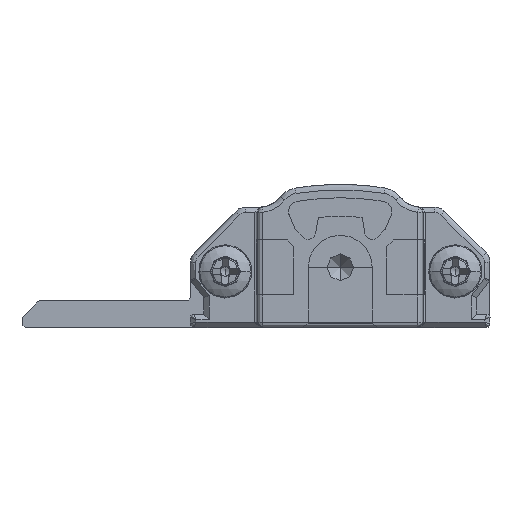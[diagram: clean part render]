
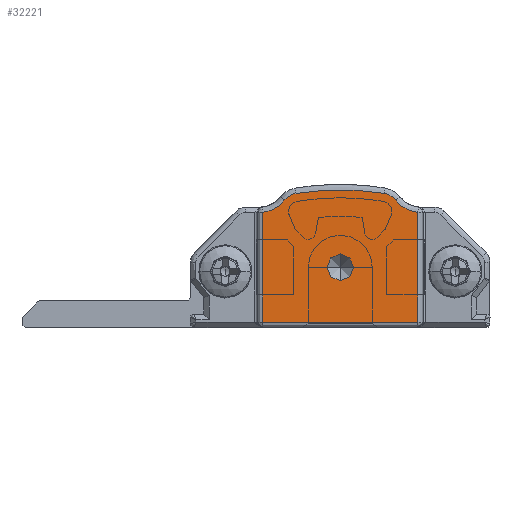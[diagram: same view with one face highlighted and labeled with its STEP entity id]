
A CAD part, front view. The second image highlights one B-rep face of the part: STEP entity #32221.
In plain terms, the highlighted planar face has unit normal (0, -1, 0).
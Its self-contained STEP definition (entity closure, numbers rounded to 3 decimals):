
#48 = EDGE_CURVE ( 'NONE', #4764, #43657, #9859, .T. ) ;
#1078 = CARTESIAN_POINT ( 'NONE',  ( 15.332, -15., 9.541 ) ) ;
#2301 = DIRECTION ( 'NONE',  ( 0., 1., 0. ) ) ;
#3364 = EDGE_LOOP ( 'NONE', ( #37435, #40771 ) ) ;
#4314 = VECTOR ( 'NONE', #26739, 1000. ) ;
#4764 = VERTEX_POINT ( 'NONE', #31469 ) ;
#6120 = EDGE_CURVE ( 'NONE', #26105, #7661, #44091, .T. ) ;
#6198 = DIRECTION ( 'NONE',  ( 0., 0., -1. ) ) ;
#6702 = DIRECTION ( 'NONE',  ( 0., 0., -1. ) ) ;
#7661 = VERTEX_POINT ( 'NONE', #17104 ) ;
#7672 = CARTESIAN_POINT ( 'NONE',  ( 17., -15., 0.4 ) ) ;
#8413 = FACE_OUTER_BOUND ( 'NONE', #37574, .T. ) ;
#8886 = EDGE_CURVE ( 'NONE', #27395, #4764, #38909, .T. ) ;
#9116 = CARTESIAN_POINT ( 'NONE',  ( 14.508, -15., 10.034 ) ) ;
#9859 = CIRCLE ( 'NONE', #14899, 2.4 ) ;
#9982 = DIRECTION ( 'NONE',  ( 0., -1., 0. ) ) ;
#10935 = VERTEX_POINT ( 'NONE', #35334 ) ;
#11078 = DIRECTION ( 'NONE',  ( 0., 0., -1. ) ) ;
#11208 = DIRECTION ( 'NONE',  ( 0., 0., -1. ) ) ;
#12762 = CARTESIAN_POINT ( 'NONE',  ( 17., -15., 0.4 ) ) ;
#13008 = DIRECTION ( 'NONE',  ( 0., 0., -1. ) ) ;
#13760 = DIRECTION ( 'NONE',  ( 0., 0., -1. ) ) ;
#14164 = VERTEX_POINT ( 'NONE', #9116 ) ;
#14243 = CARTESIAN_POINT ( 'NONE',  ( 17., -15., 8.612 ) ) ;
#14899 = AXIS2_PLACEMENT_3D ( 'NONE', #28515, #42467, #11208 ) ;
#16054 = DIRECTION ( 'NONE',  ( 0., 0., -1. ) ) ;
#17104 = CARTESIAN_POINT ( 'NONE',  ( 5.4, -15., 0.4 ) ) ;
#17282 = ORIENTED_EDGE ( 'NONE', *, *, #48, .T. ) ;
#17897 = CARTESIAN_POINT ( 'NONE',  ( 11.2, -15., 4.5 ) ) ;
#18947 = VECTOR ( 'NONE', #44001, 1000. ) ;
#19878 = CARTESIAN_POINT ( 'NONE',  ( 5.4, -15., 0.4 ) ) ;
#19903 = CIRCLE ( 'NONE', #35996, 20.676 ) ;
#19918 = VECTOR ( 'NONE', #21521, 1000. ) ;
#20642 = VERTEX_POINT ( 'NONE', #26876 ) ;
#21521 = DIRECTION ( 'NONE',  ( 0., 0., 1. ) ) ;
#22277 = FACE_BOUND ( 'NONE', #3364, .T. ) ;
#22818 = AXIS2_PLACEMENT_3D ( 'NONE', #41563, #24631, #6702 ) ;
#23435 = AXIS2_PLACEMENT_3D ( 'NONE', #36728, #40388, #6198 ) ;
#23834 = DIRECTION ( 'NONE',  ( 0., 0., -1. ) ) ;
#24226 = DIRECTION ( 'NONE',  ( 0., -1., 0. ) ) ;
#24356 = ORIENTED_EDGE ( 'NONE', *, *, #38500, .T. ) ;
#24631 = DIRECTION ( 'NONE',  ( 0., -1., 0. ) ) ;
#24961 = CARTESIAN_POINT ( 'NONE',  ( 7.068, -15., 9.541 ) ) ;
#25622 = EDGE_CURVE ( 'NONE', #43657, #14164, #30312, .T. ) ;
#26105 = VERTEX_POINT ( 'NONE', #41781 ) ;
#26595 = CARTESIAN_POINT ( 'NONE',  ( 14.3, -15., 8.75 ) ) ;
#26600 = VERTEX_POINT ( 'NONE', #24961 ) ;
#26739 = DIRECTION ( 'NONE',  ( 0., 0., -1. ) ) ;
#26876 = CARTESIAN_POINT ( 'NONE',  ( 11.2, -15., 3.5 ) ) ;
#27395 = VERTEX_POINT ( 'NONE', #7672 ) ;
#28023 = AXIS2_PLACEMENT_3D ( 'NONE', #17897, #42337, #11078 ) ;
#28205 = CARTESIAN_POINT ( 'NONE',  ( 11.2, -15., 5.5 ) ) ;
#28515 = CARTESIAN_POINT ( 'NONE',  ( 17.238, -15., 11. ) ) ;
#28771 = EDGE_CURVE ( 'NONE', #35589, #20642, #30006, .T. ) ;
#29374 = EDGE_CURVE ( 'NONE', #10935, #26600, #33024, .T. ) ;
#30006 = CIRCLE ( 'NONE', #23435, 1. ) ;
#30069 = LINE ( 'NONE', #12762, #18947 ) ;
#30118 = EDGE_CURVE ( 'NONE', #20642, #35589, #36786, .T. ) ;
#30312 = CIRCLE ( 'NONE', #37652, 1.3 ) ;
#30900 = ORIENTED_EDGE ( 'NONE', *, *, #6120, .T. ) ;
#31469 = CARTESIAN_POINT ( 'NONE',  ( 17., -15., 8.612 ) ) ;
#31497 = ORIENTED_EDGE ( 'NONE', *, *, #42459, .T. ) ;
#32221 = ADVANCED_FACE ( 'NONE', ( #8413, #22277 ), #36221, .T. ) ;
#32752 = CARTESIAN_POINT ( 'NONE',  ( 11.2, -15., -10.376 ) ) ;
#32817 = ORIENTED_EDGE ( 'NONE', *, *, #25622, .T. ) ;
#32847 = ORIENTED_EDGE ( 'NONE', *, *, #29374, .T. ) ;
#33024 = CIRCLE ( 'NONE', #22818, 1.3 ) ;
#35334 = CARTESIAN_POINT ( 'NONE',  ( 7.892, -15., 10.034 ) ) ;
#35589 = VERTEX_POINT ( 'NONE', #28205 ) ;
#35996 = AXIS2_PLACEMENT_3D ( 'NONE', #32752, #43240, #16054 ) ;
#36221 = PLANE ( 'NONE',  #42105 ) ;
#36398 = ORIENTED_EDGE ( 'NONE', *, *, #8886, .T. ) ;
#36723 = ORIENTED_EDGE ( 'NONE', *, *, #41581, .T. ) ;
#36728 = CARTESIAN_POINT ( 'NONE',  ( 11.2, -15., 4.5 ) ) ;
#36786 = CIRCLE ( 'NONE', #28023, 1. ) ;
#37435 = ORIENTED_EDGE ( 'NONE', *, *, #30118, .F. ) ;
#37574 = EDGE_LOOP ( 'NONE', ( #36398, #17282, #32817, #31497, #32847, #36723, #30900, #24356 ) ) ;
#37652 = AXIS2_PLACEMENT_3D ( 'NONE', #26595, #9982, #23834 ) ;
#38500 = EDGE_CURVE ( 'NONE', #7661, #27395, #30069, .T. ) ;
#38909 = LINE ( 'NONE', #14243, #19918 ) ;
#39497 = CIRCLE ( 'NONE', #43124, 2.4 ) ;
#40388 = DIRECTION ( 'NONE',  ( 0., -1., 0. ) ) ;
#40771 = ORIENTED_EDGE ( 'NONE', *, *, #28771, .F. ) ;
#41097 = CARTESIAN_POINT ( 'NONE',  ( 5.162, -15., 11. ) ) ;
#41563 = CARTESIAN_POINT ( 'NONE',  ( 8.1, -15., 8.75 ) ) ;
#41581 = EDGE_CURVE ( 'NONE', #26600, #26105, #39497, .T. ) ;
#41781 = CARTESIAN_POINT ( 'NONE',  ( 5.4, -15., 8.612 ) ) ;
#42105 = AXIS2_PLACEMENT_3D ( 'NONE', #44320, #24226, #13760 ) ;
#42337 = DIRECTION ( 'NONE',  ( 0., -1., 0. ) ) ;
#42459 = EDGE_CURVE ( 'NONE', #14164, #10935, #19903, .T. ) ;
#42467 = DIRECTION ( 'NONE',  ( 0., 1., 0. ) ) ;
#43124 = AXIS2_PLACEMENT_3D ( 'NONE', #41097, #2301, #13008 ) ;
#43240 = DIRECTION ( 'NONE',  ( 0., -1., 0. ) ) ;
#43657 = VERTEX_POINT ( 'NONE', #1078 ) ;
#44001 = DIRECTION ( 'NONE',  ( 1., 0., 0. ) ) ;
#44091 = LINE ( 'NONE', #19878, #4314 ) ;
#44320 = CARTESIAN_POINT ( 'NONE',  ( 22.15, -15., 3.606 ) ) ;
